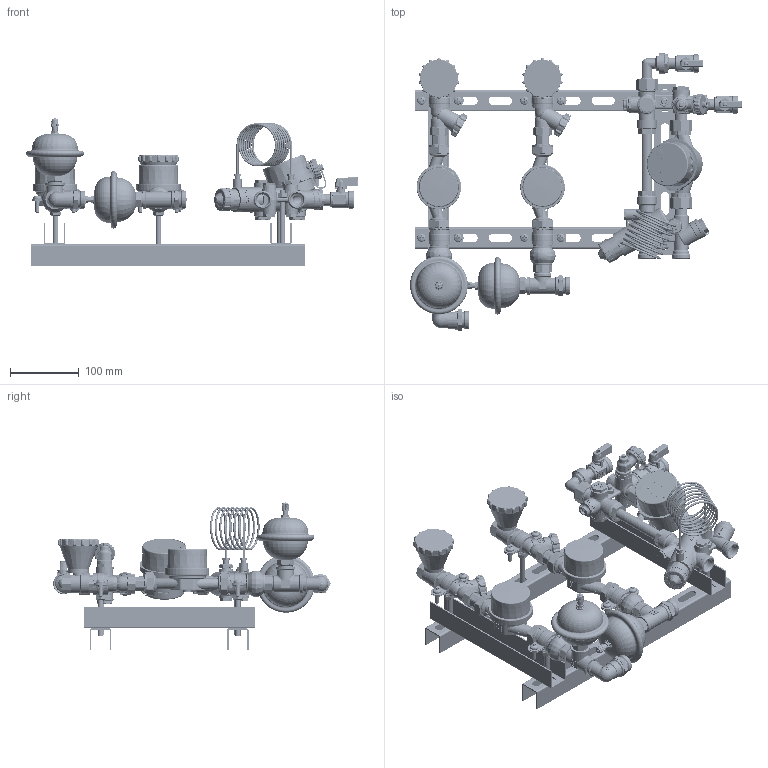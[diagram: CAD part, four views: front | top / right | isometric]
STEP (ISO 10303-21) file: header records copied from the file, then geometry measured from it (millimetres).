
FILE_DESCRIPTION(('STEP AP242'), '1');
FILE_NAME('覆.494726.023.000 捘 - VT.LM.H0.MW', '', ('UNSPECIFIED'), ('UNSPECIFIED'), 'C3D Converter', 'C3D Toolkit', '');
FILE_SCHEMA(('AP242_MANAGED_MODEL_BASED_3D_ENGINEERING_MIM_LF { 1 0 10303 442 1 1 4 }'));
Length unit declared in the file: millimetre
Products named in the file (217): ВР.494726.023.000 СБ; ВР.494726.004.000 СБ; ВР.494726.002.001 СБ; ВР.130300.003; ВР.407223.001.000 СБ; ВР.407223.001.002 СБ; ВР.731464.002; ВР.753182.016; ВР.714411.001; ВР.715113.003; ВР.407223.001.002.002 СБ; ВР.753192.014; ВР.715113.002; ВР.711141.021; ВР.713121.002; ВР.711141.022; ВР.407223.001.002.001 СБ; ВР.753181.009; ВР.713141.002; ВР.711141.023; ВР.711242.002; ВР.725113.002; ВР.752676.002; ВР.711123.001; ВР.407223.001.002.003 СБ; ВР.753125.009; ВР.712351.012; ВР.407223.001.001 СБ; ВР.407223.001.001.001 СБ; ВР.753191.017; ВР.741334.001; ВР.711112.001; ВР.711112.002; ВР.753191.016; ВР.714313.001; ВР.741331.001; ВР.714341.001; ВР.714621.003; ВР.305321.001.000 СБ; ВР.712351.001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
Assembly tree (273 placements, depth 8):
  ВР.494726.023.000 СБ
    ВР.494726.004.000 СБ
      ВР.494726.002.001 СБ
        ВР.130300.003
        ВР.407223.001.000 СБ
          ВР.407223.001.002 СБ
            ВР.731464.002
            ВР.753182.016
            ВР.714411.001
              ВР.715113.003
            ВР.407223.001.002.002 СБ
              ВР.753192.014
                ВР.715113.002
              ВР.711141.021
              ВР.713121.002
            ВР.711141.022
            ВР.407223.001.002.001 СБ
              ВР.753181.009
              ВР.713141.002
            (unnamed)
            ВР.711141.023
            ВР.711242.002
            ВР.725113.002
            ВР.752676.002
            ВР.711123.001  x2
            ВР.407223.001.002.003 СБ
              ВР.753125.009
              (unnamed)
          ВР.712351.012
          ВР.407223.001.001 СБ
            ВР.407223.001.001.001 СБ
              ВР.753191.017
              ВР.741334.001
              ВР.711112.001
            ВР.711112.002
            ВР.753191.016
            (unnamed)
            ВР.714313.001
            ВР.741331.001
            (unnamed)  x3
            ВР.714341.001  x2
            ВР.714621.003
        ВР.305321.001.000 СБ  x2
          ВР.712351.001
          ВР.714671.001
        ВР.758422.004  x2
        ВР.494726.002.001.002 СБ
          ВР.731371.001
          ВР.725140.002
          (unnamed)
            ВР.753125.023
            (unnamed)
          ВР.758421.046
          ВР.753612.008
          ВР.305319.007.000 СБ
            ВР.753125.011
            (unnamed)
          ВР.305319.008.000 СБ  x2
            ВР.753125.012
            (unnamed)
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Bounding box: 483.82 x 404.59 x 215.03 mm (x, y, z)
Volume: 1314958.7 mm3; surface area: 1158643.2 mm2
Topology: 333 solids, 337 shells, 26417 faces, 71210 edges, 46847 vertices
Faces by surface type: plane 10149, extrusion 7198, cylinder 5664, cone 1582, bspline 987, torus 742, sphere 95
Full cylindrical faces by diameter (mm): 0.4 x4, 0.6 x23, 0.7 x2, 0.8 x12, 1 x12, 1.1 x308, 1.2 x23, 1.3 x15, 1.5 x53, 1.55 x2, 1.6 x23, 1.66 x4, 1.7 x3, 1.8 x10, 1.9 x5, 2 x35, 2.1 x3, 2.2 x11, 2.3 x3, 2.4 x2, 2.5 x7, 2.8 x1, 3 x81, 3.1 x2, 3.2 x2, 3.242 x2, 3.4 x35, 3.5 x12, 3.6 x5, 3.688 x2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
Entity records: 690175 total; most frequent: CARTESIAN_POINT 328660, ORIENTED_EDGE 74974, DIRECTION 57579, EDGE_CURVE 37489, VERTEX_POINT 25444, VECTOR 21171, AXIS2_PLACEMENT_3D 18204, EDGE_LOOP 17754
